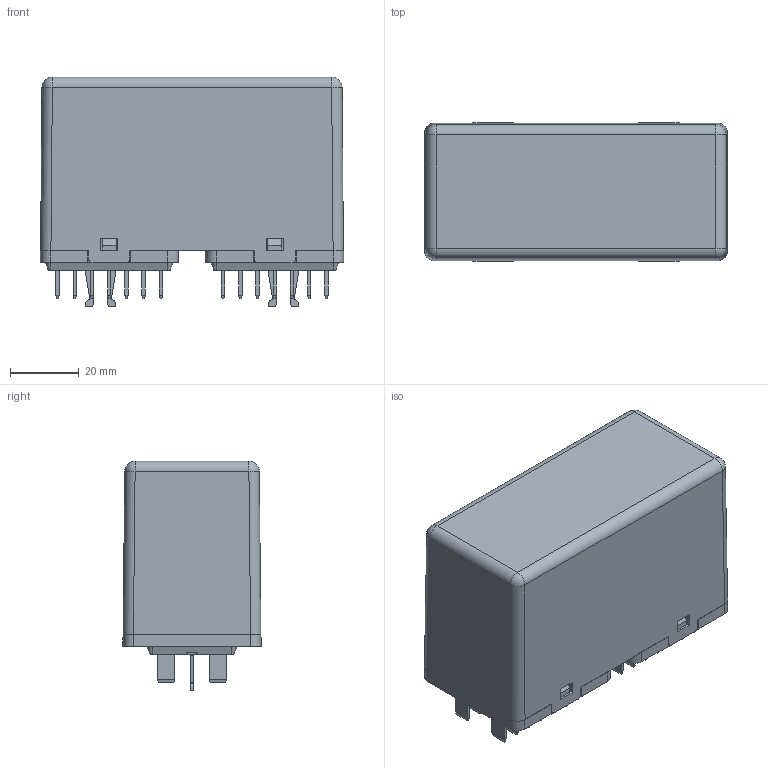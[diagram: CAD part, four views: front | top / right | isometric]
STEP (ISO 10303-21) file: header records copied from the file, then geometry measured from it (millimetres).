
FILE_DESCRIPTION((''),'2;1');
FILE_NAME('I:\TI\Bibliotheek\Inventor\Relais\TDD4B2\TDD4B2-U200.stp','2011-03-09T08:33:31',('oey'),(''),'Autodesk Inventor 2011','Autodesk Inventor 2011','');
FILE_SCHEMA(('AUTOMOTIVE_DESIGN { 1 0 10303 214 1 1 1 1 }'));
Length unit declared in the file: millimetre
Products named in the file (1): TDD4B2-U200
Bounding box: 87.9 x 40.07 x 66.65 mm (x, y, z)
Volume: 48456.8 mm3; surface area: 56464.8 mm2
Topology: 1 solids, 1 shells, 2623 faces, 7724 edges, 4923 vertices
Faces by surface type: plane 1597, cylinder 858, sphere 128, cone 21, bspline 16, torus 3
Full cylindrical faces by diameter (mm): 1.1 x1, 1.6 x14, 1.7 x3, 2 x3, 2.013 x2, 2.69 x1, 2.7 x9, 3.242 x1, 3.3 x1, 3.5 x1, 4 x10, 4.5 x1, 4.9 x1, 5 x1, 6 x1
Entity records: 89162 total; most frequent: CARTESIAN_POINT 15673, ORIENTED_EDGE 15438, DIRECTION 15149, EDGE_CURVE 7719, VECTOR 5461, LINE 5461, VERTEX_POINT 4892, AXIS2_PLACEMENT_3D 4844
